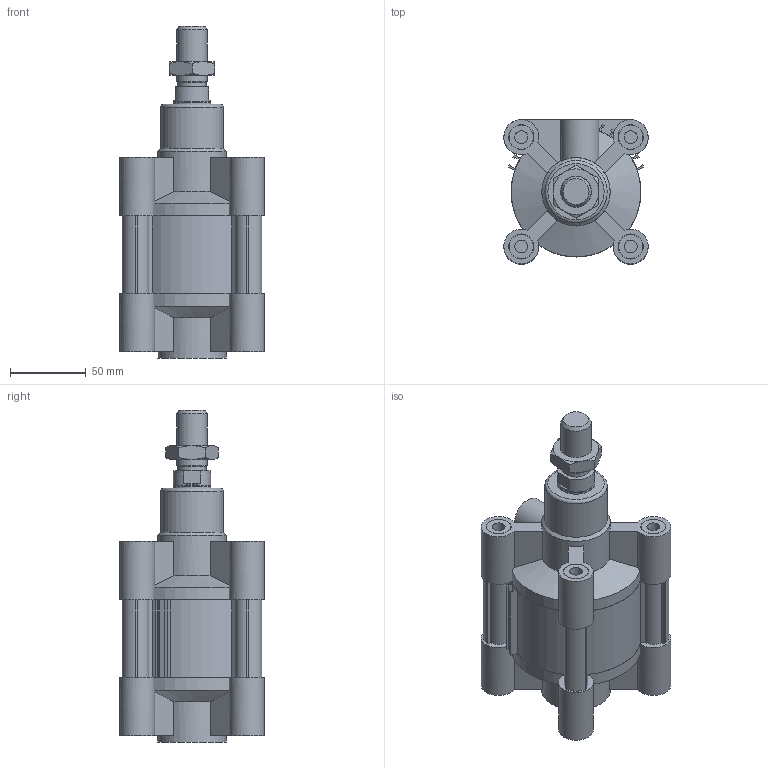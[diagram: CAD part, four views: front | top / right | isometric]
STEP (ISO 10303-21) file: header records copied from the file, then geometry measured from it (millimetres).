
FILE_DESCRIPTION((''),'2;1');
FILE_NAME('I:\Area Tecnica\Disegni\VARIE-3D\Componenti\ECOLIGHT\139#.##_0000_01\stp\139#_80_0000_01.iam.stp','2012-01-28T08:02:37',(''),(''),'Autodesk Inventor 2012','Autodesk Inventor 2012','');
FILE_SCHEMA(('AUTOMOTIVE_DESIGN { 1 0 10303 214 1 1 1 1 }'));
Length unit declared in the file: millimetre
Products named in the file (6): 139#_80_0000_01; CPL080-004-0; CPL080-001-01; CPL080-002-01; CPL_80_0000; 1320_80_18F
Assembly tree (5 placements, depth 2):
  139#_80_0000_01
    CPL080-004-0
    CPL080-001-01
    CPL080-002-01
    CPL_80_0000
    1320_80_18F
Bounding box: 95 x 95 x 218.5 mm (x, y, z)
Volume: 815486 mm3; surface area: 165789.1 mm2
Topology: 5 solids, 5 shells, 264 faces, 648 edges, 426 vertices
Faces by surface type: plane 154, cylinder 83, cone 26, torus 1
Full cylindrical faces by diameter (mm): 8.5 x8, 12 x2, 15.2 x2, 16 x8, 16.5 x8, 18 x1, 18.5 x1, 20 x1, 24.5 x1, 25 x2, 41 x1, 45 x2, 80 x4
Entity records: 7874 total; most frequent: CARTESIAN_POINT 1483, DIRECTION 1288, ORIENTED_EDGE 1186, EDGE_CURVE 593, AXIS2_PLACEMENT_3D 476, VERTEX_POINT 419, EDGE_LOOP 358, VECTOR 336
